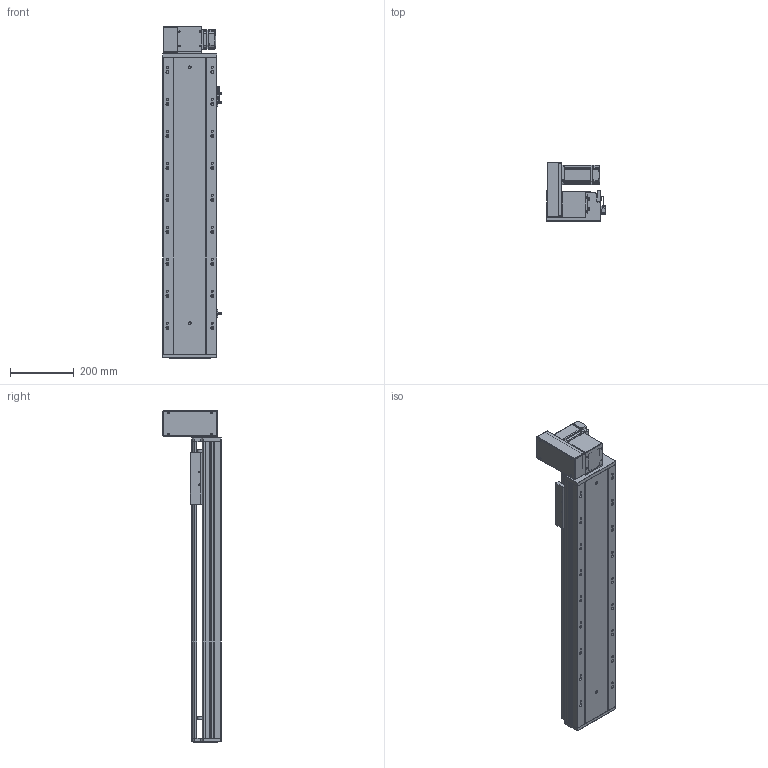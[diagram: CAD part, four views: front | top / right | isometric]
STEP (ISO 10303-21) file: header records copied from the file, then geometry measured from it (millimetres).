
FILE_DESCRIPTION (( 'STEP AP203' ), '1' );
FILE_NAME ('RY170-T-300-UL-P400W.SLDASM_650.step', '2021-03-02T02:12:26', ( '盈信电脑' ), ( '东莞市道滘镇水果街19号' ), 'SwSTEP 2.0', 'SolidWorks 2012', '' );
FILE_SCHEMA (( 'CONFIG_CONTROL_DESIGN' ));
Products named in the file (18): 15; RY170同步轮电机安装板(400W); RY170-T蹟翐M4; RY170-T-300-UL-P400W.SLDASM_650; RY120-T主同步轮轴承压盖; RY170肮祭謫萇儂欶; 滅袉蝶18-10; RY170翋肮祭謫釱; RY170-T肮祭謫裔啣; RY170-T肮祭湍揤踡輸1; RY170-T肮祭湍揤踡輸2; RY170綴裔啣; 覜茼ん672; RY170肮祭謫ヶ裔啣; RY170外置感应片(200共用）; RY170-T-300肮祭謫倰第裔啣-DL_650; RY170-T-300肮祭謫倰第菁釱-DL_650; RY170肮祭湍臏賑輸
Assembly tree (20 placements, depth 2):
  RY170-T-300-UL-P400W.SLDASM_650
    RY170-T-300肮祭謫倰第菁釱-DL_650
    RY170肮祭湍臏賑輸
    RY170-T-300肮祭謫倰第裔啣-DL_650
    RY170綴裔啣
    覜茼ん672  x3
    RY170外置感应片(200共用）
    RY170肮祭謫ヶ裔啣
    RY170翋肮祭謫釱
    RY170-T肮祭湍揤踡輸1
    RY170-T肮祭湍揤踡輸2
    RY170-T肮祭謫裔啣
    滅袉蝶18-10  x2
    RY120-T主同步轮轴承压盖
    RY170肮祭謫萇儂欶
    RY170同步轮电机安装板(400W)
    RY170-T蹟翐M4
    15
Bounding box: 183.7 x 184 x 1038 mm (x, y, z)
Volume: 5403657.1 mm3; surface area: 1808717.2 mm2
Topology: 20 solids, 20 shells, 2573 faces, 7222 edges, 4643 vertices
Faces by surface type: cylinder 1178, plane 1149, cone 216, bspline 30
Entity records: 82864 total; most frequent: CARTESIAN_POINT 18858, ORIENTED_EDGE 13128, DIRECTION 12778, EDGE_CURVE 6564, AXIS2_PLACEMENT_3D 4485, VERTEX_POINT 4311, LINE 3808, VECTOR 3808
